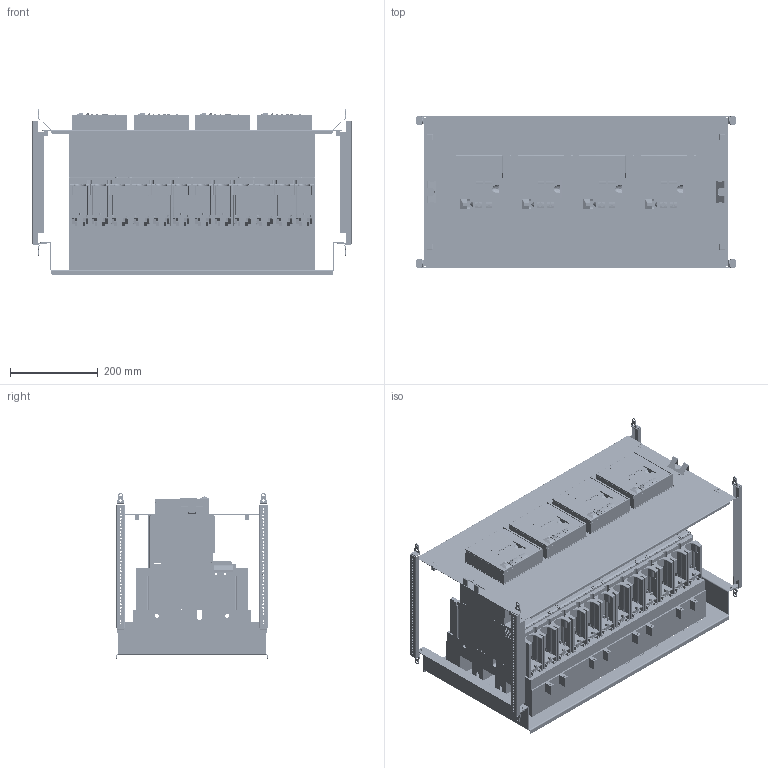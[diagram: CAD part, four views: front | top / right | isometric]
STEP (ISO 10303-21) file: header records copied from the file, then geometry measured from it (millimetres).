
FILE_DESCRIPTION(('CAx-IF Rec.Pracs.---Model Styling and Organization---1.2---2011-12-15','CAx-IF Rec.Pracs.---Geometric and Assembly Validation Properties---4.1---2014-06-16','CAx-IF Rec.Pracs.---PMI Polyline Presentation---2.0---2013-05-24'),'2;1');
FILE_NAME('R5PKIB7V81416.stp','2021-07-29T03:18:55+03:00',(''),(''),'STEP Interface 4.4 by CT CoreTechnologie','3D_Evolution4.4 by CT CoreTechnologie','');
FILE_SCHEMA(('AUTOMOTIVE_DESIGN { 1 0 10303 214 1 1 1 1 }'));
Length unit declared in the file: millimetre
Products named in the file (1): R5PKIB7V81416
Bounding box: 726 x 348 x 378.5 mm (x, y, z)
Surface area: 5620350.6 mm2 (no closed solid volume)
Topology: 0 solids, 198 shells, 23961 faces, 70611 edges, 46562 vertices
Faces by surface type: plane 16049, cylinder 6792, bspline 1120
Entity records: 821731 total; most frequent: CARTESIAN_POINT 175395, ORIENTED_EDGE 140502, DIRECTION 128945, EDGE_CURVE 70279, VECTOR 55473, LINE 55473, VERTEX_POINT 46654, AXIS2_PLACEMENT_3D 36736
